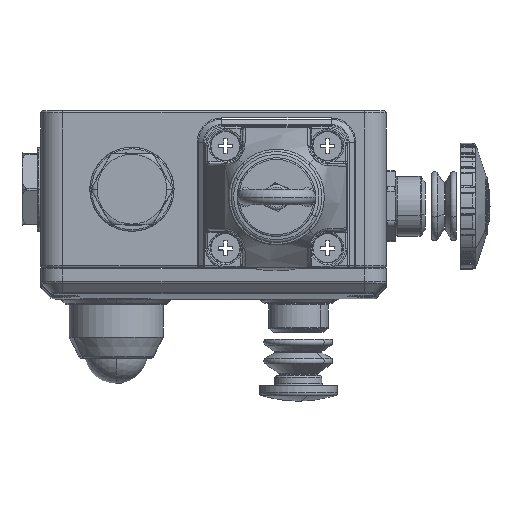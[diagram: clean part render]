
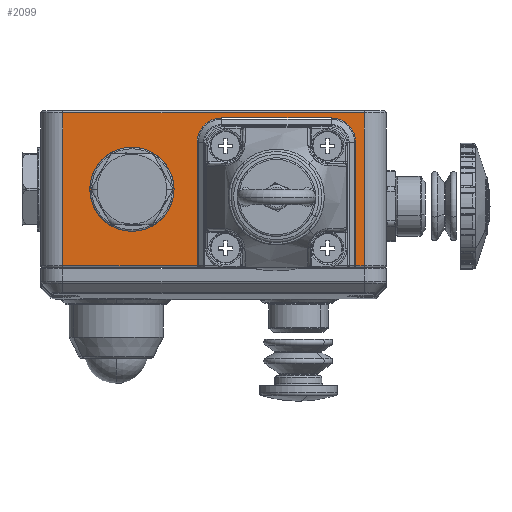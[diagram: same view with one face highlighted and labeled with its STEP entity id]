
A CAD part, left-side view. The second image highlights one B-rep face of the part: STEP entity #2099.
In plain terms, the highlighted planar face has unit normal (-1, 0, 0).
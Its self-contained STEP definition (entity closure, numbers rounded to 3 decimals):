
#663 = EDGE_CURVE ( 'NONE', #24810, #45236, #7064, .T. ) ;
#2099 = ADVANCED_FACE ( 'NONE', ( #36940, #36950 ), #43185, .F. ) ;
#4901 = EDGE_CURVE ( 'NONE', #24235, #43809, #15200, .T. ) ;
#5076 = CARTESIAN_POINT ( 'NONE',  ( 0., -103., 49.3 ) ) ;
#5117 = CARTESIAN_POINT ( 'NONE',  ( 0., -49.793, 50. ) ) ;
#5124 = DIRECTION ( 'NONE',  ( 0., 0., 1. ) ) ;
#5159 = CARTESIAN_POINT ( 'NONE',  ( 0., -103., 50. ) ) ;
#5160 = DIRECTION ( 'NONE',  ( 0., 0., 1. ) ) ;
#5164 = CARTESIAN_POINT ( 'NONE',  ( 0., 0., 47.707 ) ) ;
#5165 = DIRECTION ( 'NONE',  ( 0., -1., 0. ) ) ;
#5166 = CARTESIAN_POINT ( 'NONE',  ( 0., -7., 50. ) ) ;
#5169 = DIRECTION ( 'NONE',  ( 0., 0., -1. ) ) ;
#5173 = CARTESIAN_POINT ( 'NONE',  ( 0., -29., 25. ) ) ;
#5174 = CARTESIAN_POINT ( 'NONE',  ( 0., -100.207, 50. ) ) ;
#5175 = DIRECTION ( 'NONE',  ( 0., 0., -1. ) ) ;
#5177 = DIRECTION ( 'NONE',  ( 1., 0., 0. ) ) ;
#5178 = DIRECTION ( 'NONE',  ( 0., 1., 0. ) ) ;
#5179 = CARTESIAN_POINT ( 'NONE',  ( 0., -29., 25. ) ) ;
#5181 = DIRECTION ( 'NONE',  ( 1., 0., 0. ) ) ;
#5182 = DIRECTION ( 'NONE',  ( 0., 1., 0. ) ) ;
#7058 = VECTOR ( 'NONE', #60082, 1000. ) ;
#7064 = LINE ( 'NONE', #31053, #7058 ) ;
#8744 = CIRCLE ( 'NONE', #34032, 7.707 ) ;
#8751 = CIRCLE ( 'NONE', #34033, 7.707 ) ;
#8809 = LINE ( 'NONE', #35723, #8813 ) ;
#8813 = VECTOR ( 'NONE', #35724, 1000. ) ;
#12661 = AXIS2_PLACEMENT_3D ( 'NONE', #43184, #43187, #43188 ) ;
#15200 = LINE ( 'NONE', #20632, #15201 ) ;
#15201 = VECTOR ( 'NONE', #20633, 1000. ) ;
#20632 = CARTESIAN_POINT ( 'NONE',  ( 0., -7., 49.3 ) ) ;
#20633 = DIRECTION ( 'NONE',  ( 0., 1., 0. ) ) ;
#24235 = VERTEX_POINT ( 'NONE', #5076 ) ;
#24257 = EDGE_CURVE ( 'NONE', #45236, #36572, #37764, .T. ) ;
#24271 = EDGE_CURVE ( 'NONE', #47155, #24235, #37775, .T. ) ;
#24274 = EDGE_CURVE ( 'NONE', #36375, #43824, #37782, .T. ) ;
#24276 = EDGE_CURVE ( 'NONE', #43809, #24810, #37779, .T. ) ;
#24280 = EDGE_CURVE ( 'NONE', #43866, #45523, #37791, .T. ) ;
#24281 = EDGE_CURVE ( 'NONE', #36644, #25428, #37795, .T. ) ;
#24282 = EDGE_CURVE ( 'NONE', #25428, #36644, #37797, .T. ) ;
#24810 = VERTEX_POINT ( 'NONE', #33318 ) ;
#25428 = VERTEX_POINT ( 'NONE', #35494 ) ;
#28265 = EDGE_CURVE ( 'NONE', #43824, #43866, #8744, .T. ) ;
#28271 = EDGE_CURVE ( 'NONE', #36572, #36375, #8751, .T. ) ;
#28322 = EDGE_CURVE ( 'NONE', #45523, #47155, #8809, .T. ) ;
#31053 = CARTESIAN_POINT ( 'NONE',  ( 0., 0., 0.7 ) ) ;
#33318 = CARTESIAN_POINT ( 'NONE',  ( 0., -7., 0.7 ) ) ;
#34032 = AXIS2_PLACEMENT_3D ( 'NONE', #35566, #35568, #35569 ) ;
#34033 = AXIS2_PLACEMENT_3D ( 'NONE', #35579, #35584, #35585 ) ;
#35494 = CARTESIAN_POINT ( 'NONE',  ( 0., -18., 25. ) ) ;
#35566 = CARTESIAN_POINT ( 'NONE',  ( 0., -92.5, 40. ) ) ;
#35568 = DIRECTION ( 'NONE',  ( 1., 0., 0. ) ) ;
#35569 = DIRECTION ( 'NONE',  ( 0., 1., 0. ) ) ;
#35579 = CARTESIAN_POINT ( 'NONE',  ( 0., -57.5, 40. ) ) ;
#35584 = DIRECTION ( 'NONE',  ( 1., 0., 0. ) ) ;
#35585 = DIRECTION ( 'NONE',  ( 0., 1., 0. ) ) ;
#35723 = CARTESIAN_POINT ( 'NONE',  ( 0., 0., 0.7 ) ) ;
#35724 = DIRECTION ( 'NONE',  ( 0., -1., 0. ) ) ;
#36375 = VERTEX_POINT ( 'NONE', #49422 ) ;
#36572 = VERTEX_POINT ( 'NONE', #49679 ) ;
#36644 = VERTEX_POINT ( 'NONE', #49780 ) ;
#36940 = FACE_BOUND ( 'NONE', #46724, .T. ) ;
#36950 = FACE_OUTER_BOUND ( 'NONE', #46718, .T. ) ;
#37761 = VECTOR ( 'NONE', #5124, 1000. ) ;
#37764 = LINE ( 'NONE', #5117, #37761 ) ;
#37775 = LINE ( 'NONE', #5159, #37780 ) ;
#37779 = LINE ( 'NONE', #5166, #37789 ) ;
#37780 = VECTOR ( 'NONE', #5160, 1000. ) ;
#37782 = LINE ( 'NONE', #5164, #37787 ) ;
#37787 = VECTOR ( 'NONE', #5165, 1000. ) ;
#37789 = VECTOR ( 'NONE', #5169, 1000. ) ;
#37791 = LINE ( 'NONE', #5174, #37793 ) ;
#37793 = VECTOR ( 'NONE', #5175, 1000. ) ;
#37795 = CIRCLE ( 'NONE', #59739, 11. ) ;
#37797 = CIRCLE ( 'NONE', #59738, 11. ) ;
#43184 = CARTESIAN_POINT ( 'NONE',  ( 0., 0., 50. ) ) ;
#43185 = PLANE ( 'NONE',  #12661 ) ;
#43187 = DIRECTION ( 'NONE',  ( 1., 0., 0. ) ) ;
#43188 = DIRECTION ( 'NONE',  ( 0., 1., 0. ) ) ;
#43809 = VERTEX_POINT ( 'NONE', #53905 ) ;
#43824 = VERTEX_POINT ( 'NONE', #53920 ) ;
#43866 = VERTEX_POINT ( 'NONE', #53962 ) ;
#45236 = VERTEX_POINT ( 'NONE', #55790 ) ;
#45523 = VERTEX_POINT ( 'NONE', #56068 ) ;
#46718 = EDGE_LOOP ( 'NONE', ( #47771, #47772, #47773, #47774, #47775, #47776, #47777, #47778, #47779, #47780 ) ) ;
#46724 = EDGE_LOOP ( 'NONE', ( #47769, #47770 ) ) ;
#47155 = VERTEX_POINT ( 'NONE', #56317 ) ;
#47769 = ORIENTED_EDGE ( 'NONE', *, *, #24282, .T. ) ;
#47770 = ORIENTED_EDGE ( 'NONE', *, *, #24281, .T. ) ;
#47771 = ORIENTED_EDGE ( 'NONE', *, *, #24280, .T. ) ;
#47772 = ORIENTED_EDGE ( 'NONE', *, *, #28322, .T. ) ;
#47773 = ORIENTED_EDGE ( 'NONE', *, *, #24271, .T. ) ;
#47774 = ORIENTED_EDGE ( 'NONE', *, *, #4901, .T. ) ;
#47775 = ORIENTED_EDGE ( 'NONE', *, *, #24276, .T. ) ;
#47776 = ORIENTED_EDGE ( 'NONE', *, *, #663, .T. ) ;
#47777 = ORIENTED_EDGE ( 'NONE', *, *, #24257, .T. ) ;
#47778 = ORIENTED_EDGE ( 'NONE', *, *, #28271, .T. ) ;
#47779 = ORIENTED_EDGE ( 'NONE', *, *, #24274, .T. ) ;
#47780 = ORIENTED_EDGE ( 'NONE', *, *, #28265, .T. ) ;
#49422 = CARTESIAN_POINT ( 'NONE',  ( 0., -57.5, 47.707 ) ) ;
#49679 = CARTESIAN_POINT ( 'NONE',  ( 0., -49.793, 40. ) ) ;
#49780 = CARTESIAN_POINT ( 'NONE',  ( 0., -40., 25. ) ) ;
#53905 = CARTESIAN_POINT ( 'NONE',  ( 0., -7., 49.3 ) ) ;
#53920 = CARTESIAN_POINT ( 'NONE',  ( 0., -92.5, 47.707 ) ) ;
#53962 = CARTESIAN_POINT ( 'NONE',  ( 0., -100.207, 40. ) ) ;
#55790 = CARTESIAN_POINT ( 'NONE',  ( 0., -49.793, 0.7 ) ) ;
#56068 = CARTESIAN_POINT ( 'NONE',  ( 0., -100.207, 0.7 ) ) ;
#56317 = CARTESIAN_POINT ( 'NONE',  ( 0., -103., 0.7 ) ) ;
#59738 = AXIS2_PLACEMENT_3D ( 'NONE', #5179, #5181, #5182 ) ;
#59739 = AXIS2_PLACEMENT_3D ( 'NONE', #5173, #5177, #5178 ) ;
#60082 = DIRECTION ( 'NONE',  ( 0., -1., 0. ) ) ;
